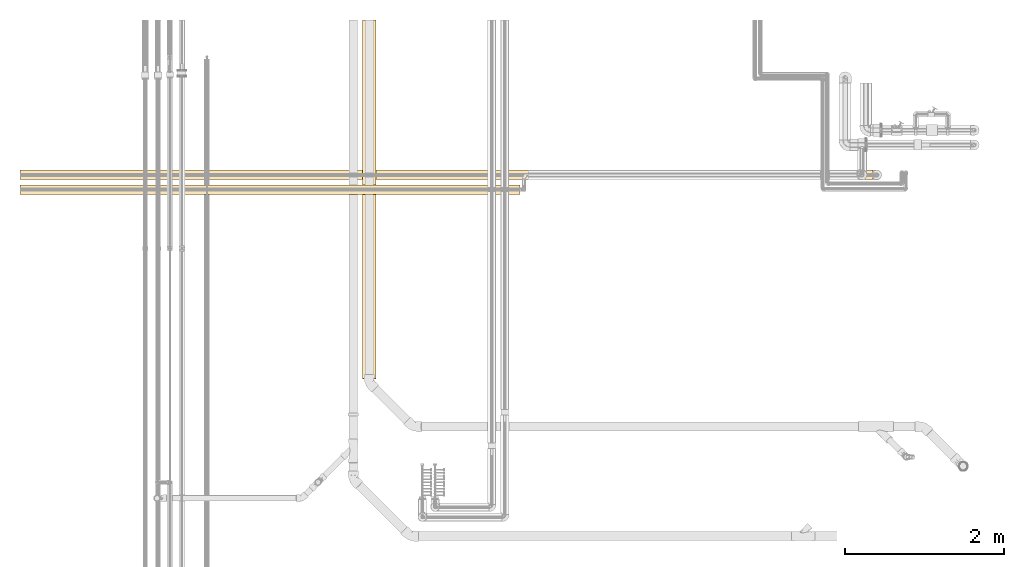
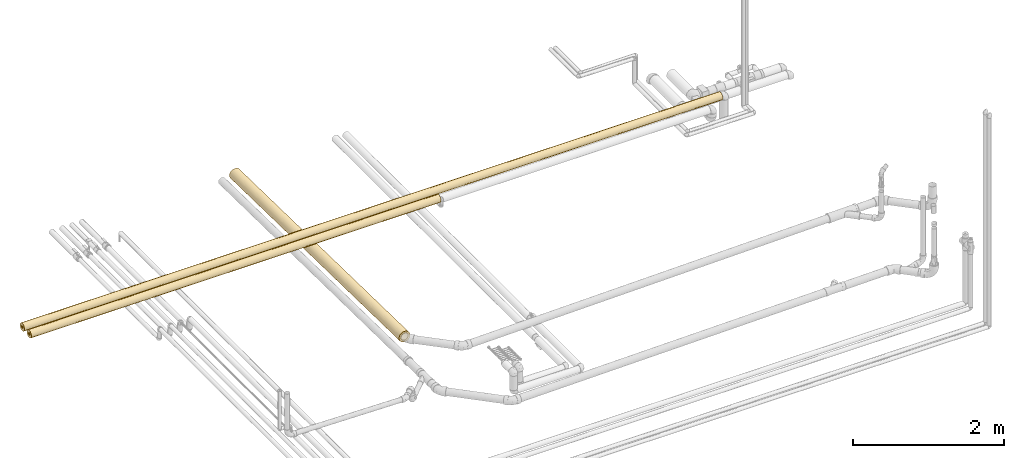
# One storey, part 14 of 83: 3 coverings.
"""IFC2X3 building model written with IfcOpenShell, lengths in millimetres."""

from ifc_helpers import new_model, entity, si_unit, converted_unit, derived_unit, direction, frame, place, context, subcontext, project, spatial, faceted_brep, element, save


model = new_model("IFC2X3")

# Units and contexts
model_context = context("Model", 3, precision=0.01, world=frame((0.0, 4.29681676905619e-09, 0.0)), true_north=direction((4.01073788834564e-13, 1.0)))
plan_context = context("Plan", 3, precision=0.01, world=frame((0.0, 4.29681676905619e-09, 0.0)), true_north=direction((4.01073788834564e-13, 1.0)))
body_context = subcontext(model_context, "Body", "Model", "MODEL_VIEW")
ifc_project = project(units=[converted_unit("PLANEANGLEUNIT", "DEGREE", entity("IfcPositiveLengthMeasure", 0.0174532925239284), si_unit("PLANEANGLEUNIT", "RADIAN"), dimensions=[0, 0, 0, 0, 0, 0, 0]), si_unit("AREAUNIT", "SQUARE_METRE"), si_unit("LENGTHUNIT", "METRE", prefix="MILLI"), si_unit("MASSUNIT", "GRAM", prefix="KILO"), si_unit("POWERUNIT", "WATT"), si_unit("PRESSUREUNIT", "PASCAL"), si_unit("FORCEUNIT", "NEWTON", prefix="KILO"), si_unit("ELECTRICVOLTAGEUNIT", "VOLT"), si_unit("ELECTRICCURRENTUNIT", "AMPERE"), si_unit("THERMODYNAMICTEMPERATUREUNIT", "DEGREE_CELSIUS"), si_unit("TIMEUNIT", "SECOND"), si_unit("VOLUMEUNIT", "CUBIC_METRE"), derived_unit("LINEARVELOCITYUNIT", [(si_unit("LENGTHUNIT", "METRE"), 1), (si_unit("TIMEUNIT", "SECOND"), -1)]), derived_unit("VOLUMETRICFLOWRATEUNIT", [(si_unit("VOLUMEUNIT", "CUBIC_METRE"), 1), (si_unit("TIMEUNIT", "SECOND"), -1)]), derived_unit("THERMALTRANSMITTANCEUNIT", [(si_unit("POWERUNIT", "WATT"), 1), (si_unit("THERMODYNAMICTEMPERATUREUNIT", "KELVIN"), -1), (si_unit("AREAUNIT", "SQUARE_METRE"), -1)]), derived_unit("SOUNDPRESSUREUNIT", [(si_unit("PRESSUREUNIT", "PASCAL"), 1)])], contexts=[model_context, plan_context])

# Site, building, storey
site_placement = place(None, frame((0.0, -4.29681676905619e-09, 0.0), z_axis=(0.0, 0.0, 1.0), x_axis=(1.0, 0.0, 0.0)))
site = spatial("IfcSite", under=ifc_project, at=site_placement, Name="ENGM", CompositionType="ELEMENT")
building_placement = place(site_placement, frame((0.0, 4.29681676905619e-09, 0.0), z_axis=(0.0, 0.0, 1.0), x_axis=(1.0, 0.0, 0.0)))
building = spatial("IfcBuilding", under=site, at=building_placement, Name="TI", CompositionType="ELEMENT")
storey_placement = place(building_placement, frame((0.0, 0.0, 204000.0), z_axis=(0.0, 0.0, 1.0), x_axis=(1.0, 0.0, 0.0)))
storey = spatial("IfcBuildingStorey", under=building, at=storey_placement, Name="Nivå D", CompositionType="ELEMENT", Elevation=204000.0)

# Coverings
covering_1_placement = place(storey_placement, frame((602382.54332, 702286.04091, 5948.69521999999), z_axis=(-0.999965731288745, -0.000165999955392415, -0.00827699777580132), x_axis=(4.59892143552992e-07, -0.999800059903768, 0.019996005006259)))
element("IfcCovering", 1, at=covering_1_placement, inside=storey, Name="BI17T - Cellegummi 13 mm SPV fett", PredefinedType="INSULATION", context=body_context, shape_type="Brep", body=[
    faceted_brep([(2812.18779932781, 54.1644264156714, -9.55064977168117), (2812.20292450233, 55.0, 0.0), (7315.2, 55.0, 0.0), (7315.2, 54.1644264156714, -9.55064977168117), (2812.13971192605, 51.6830941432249, -18.8111078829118), (7315.2, 51.6830941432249, -18.8111078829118), (2812.06012340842, 47.6313972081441, -27.5), (7315.2, 47.6313972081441, -27.5), (2811.95145203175, 42.1324443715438, -35.3533185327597), (7315.2, 42.1324443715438, -35.3533185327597), (2811.81699972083, 35.3533185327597, -42.1324443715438), (7315.2, 35.3533185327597, -42.1324443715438), (2811.6608517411, 27.5, -47.6313972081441), (7315.2, 27.5, -47.6313972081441), (2811.4877525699, 18.8111078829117, -51.683094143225), (7315.2, 18.8111078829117, -51.683094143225), (2811.30296173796, 9.55064977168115, -54.1644264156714), (7315.2, 9.55064977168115, -54.1644264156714), (2811.1120940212, -1.01033360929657e-14, -55.0), (7315.2, -1.01033360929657e-14, -55.0), (2810.9209488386, -9.55064977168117, -54.1644264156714), (7315.2, -9.55064977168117, -54.1644264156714), (2810.73533403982, -18.8111078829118, -51.6830941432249), (7315.2, -18.8111078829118, -51.6830941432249), (2810.5608894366, -27.5, -47.6313972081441), (7315.2, -27.5, -47.6313972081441), (2810.40291543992, -35.3533185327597, -42.1324443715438), (7315.2, -35.3533185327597, -42.1324443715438), (2810.26621200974, -42.1324443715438, -35.3533185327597), (7315.2, -42.1324443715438, -35.3533185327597), (2810.15493281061, -47.6313972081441, -27.5), (7315.2, -47.6313972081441, -27.5), (2810.07245900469, -51.683094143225, -18.8111078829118), (7315.2, -51.683094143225, -18.8111078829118), (2810.02129651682, -54.1644264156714, -9.55064977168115), (7315.2, -54.1644264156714, -9.55064977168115), (2810.00299989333, -55.0, 6.73555739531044e-15), (7315.2, -55.0, 6.73555739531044e-15), (2810.01812506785, -54.1644264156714, 9.55064977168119), (7315.2, -54.1644264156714, 9.55064977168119), (2810.06621246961, -51.683094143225, 18.8111078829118), (7315.2, -51.683094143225, 18.8111078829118), (2810.14580098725, -47.6313972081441, 27.5), (7315.2, -47.6313972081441, 27.5), (2810.25447236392, -42.1324443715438, 35.3533185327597), (7315.2, -42.1324443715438, 35.3533185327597), (2810.38892467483, -35.3533185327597, 42.1324443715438), (7315.2, -35.3533185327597, 42.1324443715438), (2810.54507265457, -27.5, 47.6313972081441), (7315.2, -27.5, 47.6313972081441), (2810.71817182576, -18.8111078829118, 51.683094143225), (7315.2, -18.8111078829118, 51.683094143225), (2810.90296265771, -9.55064977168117, 54.1644264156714), (7315.2, -9.55064977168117, 54.1644264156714), (2811.09383037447, 3.36777869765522e-15, 55.0), (7315.2, 3.36777869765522e-15, 55.0), (2811.28497555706, 9.55064977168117, 54.1644264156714), (7315.2, 9.55064977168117, 54.1644264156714), (2811.47059035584, 18.8111078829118, 51.683094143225), (7315.2, 18.8111078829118, 51.683094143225), (2811.64503495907, 27.5, 47.6313972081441), (7315.2, 27.5, 47.6313972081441), (2811.80300895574, 35.3533185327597, 42.1324443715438), (7315.2, 35.3533185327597, 42.1324443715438), (2811.93971238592, 42.1324443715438, 35.3533185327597), (7315.2, 42.1324443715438, 35.3533185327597), (2812.05099158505, 47.6313972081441, 27.5), (7315.2, 47.6313972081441, 27.5), (2812.13346539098, 51.683094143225, 18.8111078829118), (7315.2, 51.683094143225, 18.8111078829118), (2812.18462787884, 54.1644264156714, 9.55064977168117), (7315.2, 54.1644264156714, 9.55064977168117), (2812.78290462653, 84.0, 0.0), (2812.75980435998, 82.7238512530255, -14.5864469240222), (7315.2, 82.7238512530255, -14.5864469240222), (7315.2, 84.0, 0.0), (2812.75496069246, 82.7238512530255, 14.5864469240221), (7315.2, 82.7238512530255, 14.5864469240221), (2812.67682162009, 78.9341801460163, 28.7296920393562), (7315.2, 78.9341801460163, 28.7296920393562), (2812.55086162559, 72.7461339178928, 42.0), (7315.2, 72.7461339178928, 42.0), (2812.38090793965, 64.3477332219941, 53.9941592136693), (7315.2, 64.3477332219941, 53.9941592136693), (2812.17212451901, 53.9941592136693, 64.3477332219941), (7315.2, 53.9941592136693, 64.3477332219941), (2811.93085514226, 42.0, 72.7461339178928), (7315.2, 42.0, 72.7461339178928), (2811.66443065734, 28.7296920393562, 78.9341801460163), (7315.2, 28.7296920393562, 78.9341801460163), (2811.38094623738, 14.5864469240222, 82.7238512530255), (7315.2, 14.5864469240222, 82.7238512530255), (2811.08901541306, 5.14351655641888e-15, 84.0), (7315.2, 5.14351655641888e-15, 84.0), (2810.79750835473, -14.5864469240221, 82.7238512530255), (7315.2, -14.5864469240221, 82.7238512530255), (2810.51528235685, -28.7296920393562, 78.9341801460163), (7315.2, -28.7296920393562, 78.9341801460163), (2810.25091271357, -42.0, 72.7461339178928), (7315.2, -42.0, 72.7461339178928), (2810.01243216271, -53.9941592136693, 64.3477332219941), (7315.2, -53.9941592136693, 64.3477332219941), (2809.80708681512, -64.3477332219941, 53.9941592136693), (7315.2, -64.3477332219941, 53.9941592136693), (2809.6411159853, -72.7461339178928, 42.0), (7315.2, -72.7461339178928, 42.0), (2809.51956261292, -78.9341801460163, 28.7296920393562), (7315.2, -78.9341801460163, 28.7296920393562), (2809.44612003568, -82.7238512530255, 14.5864469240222), (7315.2, -82.7238512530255, 14.5864469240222), (2809.42301976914, -84.0, 1.02870331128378e-14), (7315.2, -84.0, 1.02870331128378e-14), (2809.4509637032, -82.7238512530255, -14.5864469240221), (7315.2, -82.7238512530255, -14.5864469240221), (2809.52910277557, -78.9341801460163, -28.7296920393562), (7315.2, -78.9341801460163, -28.7296920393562), (2809.65506277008, -72.7461339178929, -42.0), (7315.2, -72.7461339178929, -42.0), (2809.82501645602, -64.3477332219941, -53.9941592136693), (7315.2, -64.3477332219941, -53.9941592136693), (2810.03379987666, -53.9941592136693, -64.3477332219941), (7315.2, -53.9941592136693, -64.3477332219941), (2810.2750692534, -42.0, -72.7461339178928), (7315.2, -42.0, -72.7461339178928), (2810.54149373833, -28.7296920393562, -78.9341801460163), (7315.2, -28.7296920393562, -78.9341801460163), (2810.82497815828, -14.5864469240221, -82.7238512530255), (7315.2, -14.5864469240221, -82.7238512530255), (2811.11690898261, -1.54305496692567e-14, -84.0), (7315.2, -1.54305496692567e-14, -84.0), (2811.40841604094, 14.5864469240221, -82.7238512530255), (7315.2, 14.5864469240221, -82.7238512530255), (2811.69064203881, 28.7296920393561, -78.9341801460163), (7315.2, 28.7296920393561, -78.9341801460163), (2811.9550116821, 42.0, -72.7461339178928), (7315.2, 42.0, -72.7461339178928), (2812.19349223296, 53.9941592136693, -64.3477332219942), (7315.2, 53.9941592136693, -64.3477332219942), (2812.39883758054, 64.3477332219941, -53.9941592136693), (7315.2, 64.3477332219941, -53.9941592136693), (2812.56480841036, 72.7461339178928, -42.0), (7315.2, 72.7461339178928, -42.0), (2812.68636178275, 78.9341801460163, -28.7296920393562), (7315.2, 78.9341801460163, -28.7296920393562)], [[[0, 1, 2, 3]], [[4, 0, 3, 5]], [[6, 4, 5, 7]], [[8, 6, 7, 9]], [[10, 8, 9, 11]], [[12, 10, 11, 13]], [[14, 12, 13, 15]], [[16, 14, 15, 17]], [[18, 16, 17, 19]], [[20, 18, 19, 21]], [[22, 20, 21, 23]], [[24, 22, 23, 25]], [[26, 24, 25, 27]], [[28, 26, 27, 29]], [[30, 28, 29, 31]], [[32, 30, 31, 33]], [[34, 32, 33, 35]], [[36, 34, 35, 37]], [[38, 36, 37, 39]], [[40, 38, 39, 41]], [[42, 40, 41, 43]], [[44, 42, 43, 45]], [[46, 44, 45, 47]], [[48, 46, 47, 49]], [[50, 48, 49, 51]], [[52, 50, 51, 53]], [[54, 52, 53, 55]], [[56, 54, 55, 57]], [[58, 56, 57, 59]], [[60, 58, 59, 61]], [[62, 60, 61, 63]], [[64, 62, 63, 65]], [[66, 64, 65, 67]], [[68, 66, 67, 69]], [[70, 68, 69, 71]], [[1, 70, 71, 2]], [[72, 73, 74, 75]], [[76, 72, 75, 77]], [[78, 76, 77, 79]], [[80, 78, 79, 81]], [[82, 80, 81, 83]], [[84, 82, 83, 85]], [[86, 84, 85, 87]], [[88, 86, 87, 89]], [[90, 88, 89, 91]], [[92, 90, 91, 93]], [[94, 92, 93, 95]], [[96, 94, 95, 97]], [[98, 96, 97, 99]], [[100, 98, 99, 101]], [[102, 100, 101, 103]], [[104, 102, 103, 105]], [[106, 104, 105, 107]], [[108, 106, 107, 109]], [[110, 108, 109, 111]], [[112, 110, 111, 113]], [[114, 112, 113, 115]], [[116, 114, 115, 117]], [[118, 116, 117, 119]], [[120, 118, 119, 121]], [[122, 120, 121, 123]], [[124, 122, 123, 125]], [[126, 124, 125, 127]], [[128, 126, 127, 129]], [[130, 128, 129, 131]], [[132, 130, 131, 133]], [[134, 132, 133, 135]], [[136, 134, 135, 137]], [[138, 136, 137, 139]], [[140, 138, 139, 141]], [[142, 140, 141, 143]], [[73, 142, 143, 74]], [[75, 74, 143, 141, 139, 137, 135, 133, 131, 129, 127, 125, 123, 121, 119, 117, 115, 113, 111, 109, 107, 105, 103, 101, 99, 97, 95, 93, 91, 89, 87, 85, 83, 81, 79, 77], [2, 71, 69, 67, 65, 63, 61, 59, 57, 55, 53, 51, 49, 47, 45, 43, 41, 39, 37, 35, 33, 31, 29, 27, 25, 23, 21, 19, 17, 15, 13, 11, 9, 7, 5, 3]], [[76, 78, 80, 82, 84, 86, 88, 90, 92, 94, 96, 98, 100, 102, 104, 106, 108, 110, 112, 114, 116, 118, 120, 122, 124, 126, 128, 130, 132, 134, 136, 138, 140, 142, 73, 72], [4, 6, 8, 10, 12, 14, 16, 18, 20, 22, 24, 26, 28, 30, 32, 34, 36, 38, 40, 42, 44, 46, 48, 50, 52, 54, 56, 58, 60, 62, 64, 66, 68, 70, 1, 0]]], orient=[[False], [False], [False], [False], [False], [False], [False], [False], [False], [False], [False], [False], [False], [False], [False], [False], [False], [False], [False], [False], [False], [False], [False], [False], [False], [False], [False], [False], [False], [False], [False], [False], [False], [False], [False], [False], [False], [False], [False], [False], [False], [False], [False], [False], [False], [False], [False], [False], [False], [False], [False], [False], [False], [False], [False], [False], [False], [False], [False], [False], [False], [False], [False], [False], [False], [False], [False], [False], [False], [False], [False], [False], [False, False], [False, False]]),
])
covering_2_placement = place(storey_placement, frame((577469.2661, 697347.0, 6233.10000000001), z_axis=(0.0, 0.0, 1.0), x_axis=(1.0, 0.0, 0.0)))
element("IfcCovering", 2, at=covering_2_placement, inside=storey, Name="BI11T - Rørskål m/Al.folie - varme 60-25", PredefinedType="INSULATION", context=body_context, shape_type="Brep", body=[
    faceted_brep([(20530.7338999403, 19.6961550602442, -3.47296355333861), (20530.7338999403, 20.0, 0.0), (26808.5, 20.0, 0.0), (26808.5, 19.6961550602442, -3.47296355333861), (20530.7338999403, 18.7938524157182, -6.84040286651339), (26808.5, 18.7938524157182, -6.84040286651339), (20530.7338999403, 17.3205080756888, -10.0), (26808.5, 17.3205080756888, -10.0), (20530.7338999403, 15.3208888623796, -12.8557521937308), (26808.5, 15.3208888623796, -12.8557521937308), (20530.7338999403, 12.8557521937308, -15.3208888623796), (26808.5, 12.8557521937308, -15.3208888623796), (20530.7338999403, 10.0, -17.3205080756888), (26808.5, 10.0, -17.3205080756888), (20530.7338999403, 6.84040286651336, -18.7938524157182), (26808.5, 6.84040286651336, -18.7938524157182), (20530.7338999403, 3.4729635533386, -19.6961550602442), (26808.5, 3.4729635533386, -19.6961550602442), (20530.7338999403, -3.67394039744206e-15, -20.0), (26808.5, -3.67394039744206e-15, -20.0), (20530.7338999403, -3.47296355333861, -19.6961550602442), (26808.5, -3.47296355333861, -19.6961550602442), (20530.7338999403, -6.84040286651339, -18.7938524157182), (26808.5, -6.84040286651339, -18.7938524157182), (20530.7338999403, -10.0, -17.3205080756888), (26808.5, -10.0, -17.3205080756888), (20530.7338999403, -12.8557521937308, -15.3208888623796), (26808.5, -12.8557521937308, -15.3208888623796), (20530.7338999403, -15.3208888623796, -12.8557521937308), (26808.5, -15.3208888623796, -12.8557521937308), (20530.7338999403, -17.3205080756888, -9.99999999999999), (26808.5, -17.3205080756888, -9.99999999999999), (20530.7338999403, -18.7938524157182, -6.84040286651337), (26808.5, -18.7938524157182, -6.84040286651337), (20530.7338999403, -19.6961550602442, -3.4729635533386), (26808.5, -19.6961550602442, -3.4729635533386), (20530.7338999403, -20.0, 2.44929359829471e-15), (26808.5, -20.0, 2.44929359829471e-15), (20530.7338999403, -19.6961550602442, 3.47296355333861), (26808.5, -19.6961550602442, 3.47296355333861), (20530.7338999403, -18.7938524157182, 6.84040286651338), (26808.5, -18.7938524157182, 6.84040286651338), (20530.7338999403, -17.3205080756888, 10.0), (26808.5, -17.3205080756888, 10.0), (20530.7338999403, -15.3208888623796, 12.8557521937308), (26808.5, -15.3208888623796, 12.8557521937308), (20530.7338999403, -12.8557521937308, 15.3208888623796), (26808.5, -12.8557521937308, 15.3208888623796), (20530.7338999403, -10.0, 17.3205080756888), (26808.5, -10.0, 17.3205080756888), (20530.7338999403, -6.84040286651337, 18.7938524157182), (26808.5, -6.84040286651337, 18.7938524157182), (20530.7338999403, -3.47296355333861, 19.6961550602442), (26808.5, -3.47296355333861, 19.6961550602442), (20530.7338999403, 1.22464679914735e-15, 20.0), (26808.5, 1.22464679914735e-15, 20.0), (20530.7338999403, 3.47296355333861, 19.6961550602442), (26808.5, 3.47296355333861, 19.6961550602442), (20530.7338999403, 6.84040286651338, 18.7938524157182), (26808.5, 6.84040286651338, 18.7938524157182), (20530.7338999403, 10.0, 17.3205080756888), (26808.5, 10.0, 17.3205080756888), (20530.7338999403, 12.8557521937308, 15.3208888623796), (26808.5, 12.8557521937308, 15.3208888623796), (20530.7338999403, 15.3208888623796, 12.8557521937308), (26808.5, 15.3208888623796, 12.8557521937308), (20530.7338999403, 17.3205080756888, 10.0), (26808.5, 17.3205080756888, 10.0), (20530.7338999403, 18.7938524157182, 6.84040286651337), (26808.5, 18.7938524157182, 6.84040286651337), (20530.7338999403, 19.6961550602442, 3.47296355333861), (26808.5, 19.6961550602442, 3.47296355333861), (20530.7338999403, 60.0, 0.0), (20530.7338999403, 59.0884651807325, -10.4188906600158), (26808.5, 59.0884651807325, -10.4188906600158), (26808.5, 60.0, 0.0), (20530.7338999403, 59.0884651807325, 10.4188906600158), (26808.5, 59.0884651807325, 10.4188906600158), (20530.7338999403, 56.3815572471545, 20.5212085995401), (26808.5, 56.3815572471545, 20.5212085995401), (20530.7338999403, 51.9615242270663, 30.0), (26808.5, 51.9615242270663, 30.0), (20530.7338999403, 45.9626665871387, 38.5672565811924), (26808.5, 45.9626665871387, 38.5672565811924), (20530.7338999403, 38.5672565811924, 45.9626665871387), (26808.5, 38.5672565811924, 45.9626665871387), (20530.7338999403, 30.0, 51.9615242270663), (26808.5, 30.0, 51.9615242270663), (20530.7338999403, 20.5212085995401, 56.3815572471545), (26808.5, 20.5212085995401, 56.3815572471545), (20530.7338999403, 10.4188906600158, 59.0884651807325), (26808.5, 10.4188906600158, 59.0884651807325), (20530.7338999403, 3.67394039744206e-15, 60.0), (26808.5, 3.67394039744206e-15, 60.0), (20530.7338999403, -10.4188906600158, 59.0884651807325), (26808.5, -10.4188906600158, 59.0884651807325), (20530.7338999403, -20.5212085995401, 56.3815572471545), (26808.5, -20.5212085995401, 56.3815572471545), (20530.7338999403, -30.0, 51.9615242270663), (26808.5, -30.0, 51.9615242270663), (20530.7338999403, -38.5672565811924, 45.9626665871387), (26808.5, -38.5672565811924, 45.9626665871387), (20530.7338999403, -45.9626665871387, 38.5672565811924), (26808.5, -45.9626665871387, 38.5672565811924), (20530.7338999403, -51.9615242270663, 30.0), (26808.5, -51.9615242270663, 30.0), (20530.7338999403, -56.3815572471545, 20.5212085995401), (26808.5, -56.3815572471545, 20.5212085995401), (20530.7338999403, -59.0884651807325, 10.4188906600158), (26808.5, -59.0884651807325, 10.4188906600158), (20530.7338999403, -60.0, 7.34788079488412e-15), (26808.5, -60.0, 7.34788079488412e-15), (20530.7338999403, -59.0884651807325, -10.4188906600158), (26808.5, -59.0884651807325, -10.4188906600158), (20530.7338999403, -56.3815572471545, -20.5212085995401), (26808.5, -56.3815572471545, -20.5212085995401), (20530.7338999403, -51.9615242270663, -30.0), (26808.5, -51.9615242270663, -30.0), (20530.7338999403, -45.9626665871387, -38.5672565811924), (26808.5, -45.9626665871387, -38.5672565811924), (20530.7338999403, -38.5672565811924, -45.9626665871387), (26808.5, -38.5672565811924, -45.9626665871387), (20530.7338999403, -30.0, -51.9615242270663), (26808.5, -30.0, -51.9615242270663), (20530.7338999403, -20.5212085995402, -56.3815572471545), (26808.5, -20.5212085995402, -56.3815572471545), (20530.7338999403, -10.4188906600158, -59.0884651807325), (26808.5, -10.4188906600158, -59.0884651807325), (20530.7338999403, -1.10218211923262e-14, -60.0), (26808.5, -1.10218211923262e-14, -60.0), (20530.7338999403, 10.4188906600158, -59.0884651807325), (26808.5, 10.4188906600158, -59.0884651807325), (20530.7338999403, 20.5212085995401, -56.3815572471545), (26808.5, 20.5212085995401, -56.3815572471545), (20530.7338999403, 30.0, -51.9615242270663), (26808.5, 30.0, -51.9615242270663), (20530.7338999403, 38.5672565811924, -45.9626665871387), (26808.5, 38.5672565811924, -45.9626665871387), (20530.7338999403, 45.9626665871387, -38.5672565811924), (26808.5, 45.9626665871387, -38.5672565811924), (20530.7338999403, 51.9615242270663, -30.0), (26808.5, 51.9615242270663, -30.0), (20530.7338999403, 56.3815572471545, -20.5212085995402), (26808.5, 56.3815572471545, -20.5212085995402)], [[[0, 1, 2, 3]], [[4, 0, 3, 5]], [[6, 4, 5, 7]], [[8, 6, 7, 9]], [[10, 8, 9, 11]], [[12, 10, 11, 13]], [[14, 12, 13, 15]], [[16, 14, 15, 17]], [[18, 16, 17, 19]], [[20, 18, 19, 21]], [[22, 20, 21, 23]], [[24, 22, 23, 25]], [[26, 24, 25, 27]], [[28, 26, 27, 29]], [[30, 28, 29, 31]], [[32, 30, 31, 33]], [[34, 32, 33, 35]], [[36, 34, 35, 37]], [[38, 36, 37, 39]], [[40, 38, 39, 41]], [[42, 40, 41, 43]], [[44, 42, 43, 45]], [[46, 44, 45, 47]], [[48, 46, 47, 49]], [[50, 48, 49, 51]], [[52, 50, 51, 53]], [[54, 52, 53, 55]], [[56, 54, 55, 57]], [[58, 56, 57, 59]], [[60, 58, 59, 61]], [[62, 60, 61, 63]], [[64, 62, 63, 65]], [[66, 64, 65, 67]], [[68, 66, 67, 69]], [[70, 68, 69, 71]], [[1, 70, 71, 2]], [[72, 73, 74, 75]], [[76, 72, 75, 77]], [[78, 76, 77, 79]], [[80, 78, 79, 81]], [[82, 80, 81, 83]], [[84, 82, 83, 85]], [[86, 84, 85, 87]], [[88, 86, 87, 89]], [[90, 88, 89, 91]], [[92, 90, 91, 93]], [[94, 92, 93, 95]], [[96, 94, 95, 97]], [[98, 96, 97, 99]], [[100, 98, 99, 101]], [[102, 100, 101, 103]], [[104, 102, 103, 105]], [[106, 104, 105, 107]], [[108, 106, 107, 109]], [[110, 108, 109, 111]], [[112, 110, 111, 113]], [[114, 112, 113, 115]], [[116, 114, 115, 117]], [[118, 116, 117, 119]], [[120, 118, 119, 121]], [[122, 120, 121, 123]], [[124, 122, 123, 125]], [[126, 124, 125, 127]], [[128, 126, 127, 129]], [[130, 128, 129, 131]], [[132, 130, 131, 133]], [[134, 132, 133, 135]], [[136, 134, 135, 137]], [[138, 136, 137, 139]], [[140, 138, 139, 141]], [[142, 140, 141, 143]], [[73, 142, 143, 74]], [[75, 74, 143, 141, 139, 137, 135, 133, 131, 129, 127, 125, 123, 121, 119, 117, 115, 113, 111, 109, 107, 105, 103, 101, 99, 97, 95, 93, 91, 89, 87, 85, 83, 81, 79, 77], [2, 71, 69, 67, 65, 63, 61, 59, 57, 55, 53, 51, 49, 47, 45, 43, 41, 39, 37, 35, 33, 31, 29, 27, 25, 23, 21, 19, 17, 15, 13, 11, 9, 7, 5, 3]], [[76, 78, 80, 82, 84, 86, 88, 90, 92, 94, 96, 98, 100, 102, 104, 106, 108, 110, 112, 114, 116, 118, 120, 122, 124, 126, 128, 130, 132, 134, 136, 138, 140, 142, 73, 72], [4, 6, 8, 10, 12, 14, 16, 18, 20, 22, 24, 26, 28, 30, 32, 34, 36, 38, 40, 42, 44, 46, 48, 50, 52, 54, 56, 58, 60, 62, 64, 66, 68, 70, 1, 0]]], orient=[[False], [False], [False], [False], [False], [False], [False], [False], [False], [False], [False], [False], [False], [False], [False], [False], [False], [False], [False], [False], [False], [False], [False], [False], [False], [False], [False], [False], [False], [False], [False], [False], [False], [False], [False], [False], [False], [False], [False], [False], [False], [False], [False], [False], [False], [False], [False], [False], [False], [False], [False], [False], [False], [False], [False], [False], [False], [False], [False], [False], [False], [False], [False], [False], [False], [False], [False], [False], [False], [False], [False], [False], [False, False], [False, False]]),
])
covering_3_placement = place(storey_placement, frame((608704.37351, 697531.0, 6233.10000000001), z_axis=(0.0, 0.0, 1.0), x_axis=(-1.0, 0.0, 0.0)))
element("IfcCovering", 3, at=covering_3_placement, inside=storey, Name="BI11T - Rørskål m/Al.folie - varme 60-25", PredefinedType="INSULATION", context=body_context, shape_type="Brep", body=[
    faceted_brep([(10704.3735100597, 20.0, 0.0), (10704.3735100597, 19.6961550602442, -3.47296355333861), (0.0, 19.6961550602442, -3.47296355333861), (0.0, 20.0, 0.0), (10704.3735100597, 18.7938524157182, -6.84040286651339), (0.0, 18.7938524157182, -6.84040286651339), (10704.3735100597, 17.3205080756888, -10.0), (0.0, 17.3205080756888, -10.0), (10704.3735100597, 15.3208888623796, -12.8557521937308), (0.0, 15.3208888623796, -12.8557521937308), (10704.3735100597, 12.8557521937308, -15.3208888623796), (0.0, 12.8557521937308, -15.3208888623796), (10704.3735100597, 10.0, -17.3205080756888), (0.0, 10.0, -17.3205080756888), (10704.3735100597, 6.84040286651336, -18.7938524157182), (0.0, 6.84040286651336, -18.7938524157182), (10704.3735100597, 3.4729635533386, -19.6961550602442), (0.0, 3.4729635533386, -19.6961550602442), (10704.3735100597, -3.67394039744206e-15, -20.0), (0.0, -3.67394039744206e-15, -20.0), (10704.3735100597, -3.47296355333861, -19.6961550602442), (0.0, -3.47296355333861, -19.6961550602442), (10704.3735100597, -6.84040286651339, -18.7938524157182), (0.0, -6.84040286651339, -18.7938524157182), (10704.3735100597, -10.0, -17.3205080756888), (0.0, -10.0, -17.3205080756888), (10704.3735100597, -12.8557521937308, -15.3208888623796), (0.0, -12.8557521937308, -15.3208888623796), (10704.3735100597, -15.3208888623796, -12.8557521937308), (0.0, -15.3208888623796, -12.8557521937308), (10704.3735100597, -17.3205080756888, -9.99999999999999), (0.0, -17.3205080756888, -9.99999999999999), (10704.3735100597, -18.7938524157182, -6.84040286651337), (0.0, -18.7938524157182, -6.84040286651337), (10704.3735100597, -19.6961550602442, -3.4729635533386), (0.0, -19.6961550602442, -3.4729635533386), (10704.3735100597, -20.0, 2.44929359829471e-15), (0.0, -20.0, 2.44929359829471e-15), (10704.3735100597, -19.6961550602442, 3.47296355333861), (0.0, -19.6961550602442, 3.47296355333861), (10704.3735100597, -18.7938524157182, 6.84040286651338), (0.0, -18.7938524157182, 6.84040286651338), (10704.3735100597, -17.3205080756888, 10.0), (0.0, -17.3205080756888, 10.0), (10704.3735100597, -15.3208888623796, 12.8557521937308), (0.0, -15.3208888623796, 12.8557521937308), (10704.3735100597, -12.8557521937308, 15.3208888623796), (0.0, -12.8557521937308, 15.3208888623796), (10704.3735100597, -10.0, 17.3205080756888), (0.0, -10.0, 17.3205080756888), (10704.3735100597, -6.84040286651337, 18.7938524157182), (0.0, -6.84040286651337, 18.7938524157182), (10704.3735100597, -3.47296355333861, 19.6961550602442), (0.0, -3.47296355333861, 19.6961550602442), (10704.3735100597, 1.22464679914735e-15, 20.0), (0.0, 1.22464679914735e-15, 20.0), (10704.3735100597, 3.47296355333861, 19.6961550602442), (0.0, 3.47296355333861, 19.6961550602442), (10704.3735100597, 6.84040286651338, 18.7938524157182), (0.0, 6.84040286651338, 18.7938524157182), (10704.3735100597, 10.0, 17.3205080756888), (0.0, 10.0, 17.3205080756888), (10704.3735100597, 12.8557521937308, 15.3208888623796), (0.0, 12.8557521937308, 15.3208888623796), (10704.3735100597, 15.3208888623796, 12.8557521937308), (0.0, 15.3208888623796, 12.8557521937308), (10704.3735100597, 17.3205080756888, 10.0), (0.0, 17.3205080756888, 10.0), (10704.3735100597, 18.7938524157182, 6.84040286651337), (0.0, 18.7938524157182, 6.84040286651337), (10704.3735100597, 19.6961550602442, 3.47296355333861), (0.0, 19.6961550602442, 3.47296355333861), (10704.3735100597, 59.0884651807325, -10.4188906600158), (10704.3735100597, 60.0, 0.0), (0.0, 60.0, 0.0), (0.0, 59.0884651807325, -10.4188906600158), (10704.3735100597, 59.0884651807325, 10.4188906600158), (0.0, 59.0884651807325, 10.4188906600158), (10704.3735100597, 56.3815572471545, 20.5212085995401), (0.0, 56.3815572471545, 20.5212085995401), (10704.3735100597, 51.9615242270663, 30.0), (0.0, 51.9615242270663, 30.0), (10704.3735100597, 45.9626665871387, 38.5672565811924), (0.0, 45.9626665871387, 38.5672565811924), (10704.3735100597, 38.5672565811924, 45.9626665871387), (0.0, 38.5672565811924, 45.9626665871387), (10704.3735100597, 30.0, 51.9615242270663), (0.0, 30.0, 51.9615242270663), (10704.3735100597, 20.5212085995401, 56.3815572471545), (0.0, 20.5212085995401, 56.3815572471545), (10704.3735100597, 10.4188906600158, 59.0884651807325), (0.0, 10.4188906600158, 59.0884651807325), (10704.3735100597, 3.67394039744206e-15, 60.0), (0.0, 3.67394039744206e-15, 60.0), (10704.3735100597, -10.4188906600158, 59.0884651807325), (0.0, -10.4188906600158, 59.0884651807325), (10704.3735100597, -20.5212085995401, 56.3815572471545), (0.0, -20.5212085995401, 56.3815572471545), (10704.3735100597, -30.0, 51.9615242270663), (0.0, -30.0, 51.9615242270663), (10704.3735100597, -38.5672565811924, 45.9626665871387), (0.0, -38.5672565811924, 45.9626665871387), (10704.3735100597, -45.9626665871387, 38.5672565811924), (0.0, -45.9626665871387, 38.5672565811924), (10704.3735100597, -51.9615242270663, 30.0), (0.0, -51.9615242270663, 30.0), (10704.3735100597, -56.3815572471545, 20.5212085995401), (0.0, -56.3815572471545, 20.5212085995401), (10704.3735100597, -59.0884651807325, 10.4188906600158), (0.0, -59.0884651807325, 10.4188906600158), (10704.3735100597, -60.0, 7.34788079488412e-15), (0.0, -60.0, 7.34788079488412e-15), (10704.3735100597, -59.0884651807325, -10.4188906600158), (0.0, -59.0884651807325, -10.4188906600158), (10704.3735100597, -56.3815572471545, -20.5212085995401), (0.0, -56.3815572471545, -20.5212085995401), (10704.3735100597, -51.9615242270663, -30.0), (0.0, -51.9615242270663, -30.0), (10704.3735100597, -45.9626665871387, -38.5672565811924), (0.0, -45.9626665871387, -38.5672565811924), (10704.3735100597, -38.5672565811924, -45.9626665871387), (0.0, -38.5672565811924, -45.9626665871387), (10704.3735100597, -30.0, -51.9615242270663), (0.0, -30.0, -51.9615242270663), (10704.3735100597, -20.5212085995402, -56.3815572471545), (0.0, -20.5212085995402, -56.3815572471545), (10704.3735100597, -10.4188906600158, -59.0884651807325), (0.0, -10.4188906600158, -59.0884651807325), (10704.3735100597, -1.10218211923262e-14, -60.0), (0.0, -1.10218211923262e-14, -60.0), (10704.3735100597, 10.4188906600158, -59.0884651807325), (0.0, 10.4188906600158, -59.0884651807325), (10704.3735100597, 20.5212085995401, -56.3815572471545), (0.0, 20.5212085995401, -56.3815572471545), (10704.3735100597, 30.0, -51.9615242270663), (0.0, 30.0, -51.9615242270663), (10704.3735100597, 38.5672565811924, -45.9626665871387), (0.0, 38.5672565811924, -45.9626665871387), (10704.3735100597, 45.9626665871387, -38.5672565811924), (0.0, 45.9626665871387, -38.5672565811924), (10704.3735100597, 51.9615242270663, -30.0), (0.0, 51.9615242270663, -30.0), (10704.3735100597, 56.3815572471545, -20.5212085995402), (0.0, 56.3815572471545, -20.5212085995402)], [[[0, 1, 2, 3]], [[1, 4, 5, 2]], [[4, 6, 7, 5]], [[6, 8, 9, 7]], [[8, 10, 11, 9]], [[10, 12, 13, 11]], [[12, 14, 15, 13]], [[14, 16, 17, 15]], [[16, 18, 19, 17]], [[18, 20, 21, 19]], [[20, 22, 23, 21]], [[22, 24, 25, 23]], [[24, 26, 27, 25]], [[26, 28, 29, 27]], [[28, 30, 31, 29]], [[30, 32, 33, 31]], [[32, 34, 35, 33]], [[34, 36, 37, 35]], [[36, 38, 39, 37]], [[38, 40, 41, 39]], [[40, 42, 43, 41]], [[42, 44, 45, 43]], [[44, 46, 47, 45]], [[46, 48, 49, 47]], [[48, 50, 51, 49]], [[50, 52, 53, 51]], [[52, 54, 55, 53]], [[54, 56, 57, 55]], [[56, 58, 59, 57]], [[58, 60, 61, 59]], [[60, 62, 63, 61]], [[62, 64, 65, 63]], [[64, 66, 67, 65]], [[66, 68, 69, 67]], [[68, 70, 71, 69]], [[70, 0, 3, 71]], [[72, 73, 74, 75]], [[73, 76, 77, 74]], [[76, 78, 79, 77]], [[78, 80, 81, 79]], [[80, 82, 83, 81]], [[82, 84, 85, 83]], [[84, 86, 87, 85]], [[86, 88, 89, 87]], [[88, 90, 91, 89]], [[90, 92, 93, 91]], [[92, 94, 95, 93]], [[94, 96, 97, 95]], [[96, 98, 99, 97]], [[98, 100, 101, 99]], [[100, 102, 103, 101]], [[102, 104, 105, 103]], [[104, 106, 107, 105]], [[106, 108, 109, 107]], [[108, 110, 111, 109]], [[110, 112, 113, 111]], [[112, 114, 115, 113]], [[114, 116, 117, 115]], [[116, 118, 119, 117]], [[118, 120, 121, 119]], [[120, 122, 123, 121]], [[122, 124, 125, 123]], [[124, 126, 127, 125]], [[126, 128, 129, 127]], [[128, 130, 131, 129]], [[130, 132, 133, 131]], [[132, 134, 135, 133]], [[134, 136, 137, 135]], [[136, 138, 139, 137]], [[138, 140, 141, 139]], [[140, 142, 143, 141]], [[142, 72, 75, 143]], [[75, 74, 77, 79, 81, 83, 85, 87, 89, 91, 93, 95, 97, 99, 101, 103, 105, 107, 109, 111, 113, 115, 117, 119, 121, 123, 125, 127, 129, 131, 133, 135, 137, 139, 141, 143], [3, 2, 5, 7, 9, 11, 13, 15, 17, 19, 21, 23, 25, 27, 29, 31, 33, 35, 37, 39, 41, 43, 45, 47, 49, 51, 53, 55, 57, 59, 61, 63, 65, 67, 69, 71]], [[142, 140, 138, 136, 134, 132, 130, 128, 126, 124, 122, 120, 118, 116, 114, 112, 110, 108, 106, 104, 102, 100, 98, 96, 94, 92, 90, 88, 86, 84, 82, 80, 78, 76, 73, 72], [70, 68, 66, 64, 62, 60, 58, 56, 54, 52, 50, 48, 46, 44, 42, 40, 38, 36, 34, 32, 30, 28, 26, 24, 22, 20, 18, 16, 14, 12, 10, 8, 6, 4, 1, 0]]], orient=[[False], [False], [False], [False], [False], [False], [False], [False], [False], [False], [False], [False], [False], [False], [False], [False], [False], [False], [False], [False], [False], [False], [False], [False], [False], [False], [False], [False], [False], [False], [False], [False], [False], [False], [False], [False], [False], [False], [False], [False], [False], [False], [False], [False], [False], [False], [False], [False], [False], [False], [False], [False], [False], [False], [False], [False], [False], [False], [False], [False], [False], [False], [False], [False], [False], [False], [False], [False], [False], [False], [False], [False], [False, False], [False, False]]),
])

save(model, "model.ifc")
